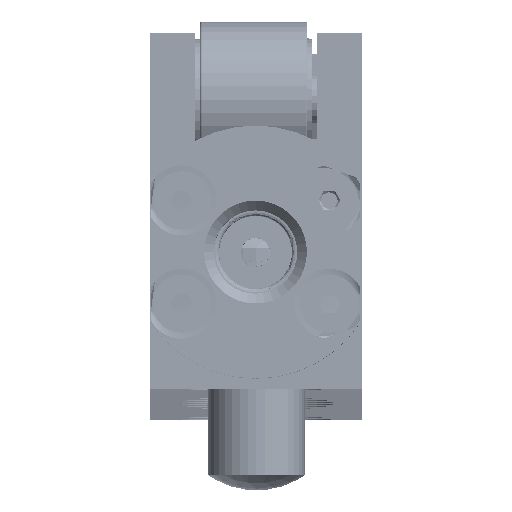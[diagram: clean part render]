
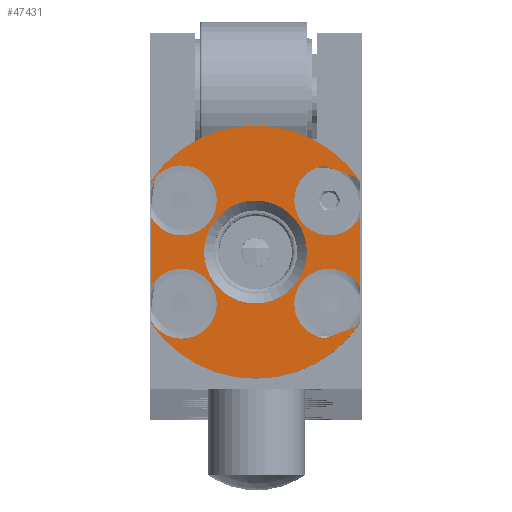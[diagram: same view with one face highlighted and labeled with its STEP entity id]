
A CAD part, top view. The second image highlights one B-rep face of the part: STEP entity #47431.
In plain terms, the highlighted planar face has unit normal (0, 0, 1).
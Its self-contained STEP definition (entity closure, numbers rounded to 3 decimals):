
#1722=FACE_BOUND('',#7368,.T.);
#2129=PLANE('',#51878);
#4486=FACE_OUTER_BOUND('',#7367,.T.);
#7367=EDGE_LOOP('',(#35789,#35790,#35791,#35792,#35793,#35794,#35795,#35796,
#35797,#35798,#35799,#35800,#35801,#35802,#35803,#35804));
#7368=EDGE_LOOP('',(#35805));
#9896=LINE('',#85381,#11630);
#9897=LINE('',#85384,#11631);
#9898=LINE('',#85388,#11632);
#9899=LINE('',#85392,#11633);
#9900=LINE('',#85396,#11634);
#9901=LINE('',#85400,#11635);
#9902=LINE('',#85404,#11636);
#9903=LINE('',#85407,#11637);
#11630=VECTOR('',#62949,10.);
#11631=VECTOR('',#62952,10.);
#11632=VECTOR('',#62955,10.);
#11633=VECTOR('',#62958,10.);
#11634=VECTOR('',#62961,10.);
#11635=VECTOR('',#62964,10.);
#11636=VECTOR('',#62967,10.);
#11637=VECTOR('',#62970,10.);
#14013=CIRCLE('',#51871,3.6);
#14016=CIRCLE('',#51874,3.6);
#14018=CIRCLE('',#51879,3.6);
#14019=CIRCLE('',#51880,3.6);
#14020=CIRCLE('',#51881,13.);
#14021=CIRCLE('',#51882,3.6);
#14022=CIRCLE('',#51883,3.6);
#14023=CIRCLE('',#51884,13.);
#14024=CIRCLE('',#51885,5.283);
#19278=VERTEX_POINT('',#85355);
#19279=VERTEX_POINT('',#85356);
#19280=VERTEX_POINT('',#85360);
#19284=VERTEX_POINT('',#85371);
#19286=VERTEX_POINT('',#85383);
#19287=VERTEX_POINT('',#85385);
#19288=VERTEX_POINT('',#85387);
#19289=VERTEX_POINT('',#85389);
#19290=VERTEX_POINT('',#85391);
#19291=VERTEX_POINT('',#85393);
#19292=VERTEX_POINT('',#85395);
#19293=VERTEX_POINT('',#85397);
#19294=VERTEX_POINT('',#85399);
#19295=VERTEX_POINT('',#85401);
#19296=VERTEX_POINT('',#85403);
#19297=VERTEX_POINT('',#85405);
#19298=VERTEX_POINT('',#85408);
#25349=EDGE_CURVE('',#19280,#19278,#14013,.T.);
#25355=EDGE_CURVE('',#19279,#19284,#14016,.T.);
#25358=EDGE_CURVE('',#19284,#19280,#9896,.T.);
#25359=EDGE_CURVE('',#19278,#19286,#9897,.T.);
#25360=EDGE_CURVE('',#19286,#19287,#14018,.T.);
#25361=EDGE_CURVE('',#19287,#19288,#9898,.T.);
#25362=EDGE_CURVE('',#19288,#19289,#14019,.T.);
#25363=EDGE_CURVE('',#19289,#19290,#9899,.T.);
#25364=EDGE_CURVE('',#19291,#19290,#14020,.T.);
#25365=EDGE_CURVE('',#19291,#19292,#9900,.T.);
#25366=EDGE_CURVE('',#19292,#19293,#14021,.T.);
#25367=EDGE_CURVE('',#19293,#19294,#9901,.T.);
#25368=EDGE_CURVE('',#19294,#19295,#14022,.T.);
#25369=EDGE_CURVE('',#19295,#19296,#9902,.T.);
#25370=EDGE_CURVE('',#19297,#19296,#14023,.T.);
#25371=EDGE_CURVE('',#19297,#19279,#9903,.T.);
#25372=EDGE_CURVE('',#19298,#19298,#14024,.T.);
#35789=ORIENTED_EDGE('',*,*,#25355,.T.);
#35790=ORIENTED_EDGE('',*,*,#25358,.T.);
#35791=ORIENTED_EDGE('',*,*,#25349,.T.);
#35792=ORIENTED_EDGE('',*,*,#25359,.T.);
#35793=ORIENTED_EDGE('',*,*,#25360,.T.);
#35794=ORIENTED_EDGE('',*,*,#25361,.T.);
#35795=ORIENTED_EDGE('',*,*,#25362,.T.);
#35796=ORIENTED_EDGE('',*,*,#25363,.T.);
#35797=ORIENTED_EDGE('',*,*,#25364,.F.);
#35798=ORIENTED_EDGE('',*,*,#25365,.T.);
#35799=ORIENTED_EDGE('',*,*,#25366,.T.);
#35800=ORIENTED_EDGE('',*,*,#25367,.T.);
#35801=ORIENTED_EDGE('',*,*,#25368,.T.);
#35802=ORIENTED_EDGE('',*,*,#25369,.T.);
#35803=ORIENTED_EDGE('',*,*,#25370,.F.);
#35804=ORIENTED_EDGE('',*,*,#25371,.T.);
#35805=ORIENTED_EDGE('',*,*,#25372,.F.);
#47431=ADVANCED_FACE('',(#4486,#1722),#2129,.T.);
#51871=AXIS2_PLACEMENT_3D('',#85361,#62933,#62934);
#51874=AXIS2_PLACEMENT_3D('',#85375,#62940,#62941);
#51878=AXIS2_PLACEMENT_3D('',#85382,#62950,#62951);
#51879=AXIS2_PLACEMENT_3D('',#85386,#62953,#62954);
#51880=AXIS2_PLACEMENT_3D('',#85390,#62956,#62957);
#51881=AXIS2_PLACEMENT_3D('',#85394,#62959,#62960);
#51882=AXIS2_PLACEMENT_3D('',#85398,#62962,#62963);
#51883=AXIS2_PLACEMENT_3D('',#85402,#62965,#62966);
#51884=AXIS2_PLACEMENT_3D('',#85406,#62968,#62969);
#51885=AXIS2_PLACEMENT_3D('',#85409,#62971,#62972);
#62933=DIRECTION('center_axis',(0.,0.,-1.));
#62934=DIRECTION('ref_axis',(-0.342,0.94,0.));
#62940=DIRECTION('center_axis',(0.,0.,-1.));
#62941=DIRECTION('ref_axis',(-0.342,0.94,0.));
#62949=DIRECTION('',(-0.94,-0.342,0.));
#62950=DIRECTION('center_axis',(0.,0.,1.));
#62951=DIRECTION('ref_axis',(1.,0.,0.));
#62952=DIRECTION('',(0.,1.,0.));
#62953=DIRECTION('center_axis',(0.,0.,-1.));
#62954=DIRECTION('ref_axis',(-0.342,-0.94,0.));
#62955=DIRECTION('',(0.94,-0.342,0.));
#62956=DIRECTION('center_axis',(0.,0.,-1.));
#62957=DIRECTION('ref_axis',(-0.342,-0.94,0.));
#62958=DIRECTION('',(0.,1.,0.));
#62959=DIRECTION('center_axis',(0.,0.,-1.));
#62960=DIRECTION('ref_axis',(0.,1.,0.));
#62961=DIRECTION('',(0.,-1.,0.));
#62962=DIRECTION('center_axis',(0.,0.,-1.));
#62963=DIRECTION('ref_axis',(1.,0.,0.));
#62964=DIRECTION('',(0.,-1.,0.));
#62965=DIRECTION('center_axis',(0.,0.,-1.));
#62966=DIRECTION('ref_axis',(1.,0.,0.));
#62967=DIRECTION('',(0.,-1.,0.));
#62968=DIRECTION('center_axis',(0.,0.,-1.));
#62969=DIRECTION('ref_axis',(0.,1.,0.));
#62970=DIRECTION('',(0.,1.,0.));
#62971=DIRECTION('center_axis',(0.,0.,1.));
#62972=DIRECTION('ref_axis',(-1.,0.,0.));
#85355=CARTESIAN_POINT('',(10.7,-7.855,1416.));
#85356=CARTESIAN_POINT('',(10.7,-11.256,1416.));
#85360=CARTESIAN_POINT('',(7.014,-13.119,1416.));
#85361=CARTESIAN_POINT('Origin',(7.527,-9.556,1416.));
#85371=CARTESIAN_POINT('',(10.211,-11.955,1416.));
#85375=CARTESIAN_POINT('Origin',(7.527,-9.556,1416.));
#85381=CARTESIAN_POINT('',(8.106,-12.721,1416.));
#85382=CARTESIAN_POINT('Origin',(-0.05,2.25,1416.));
#85383=CARTESIAN_POINT('',(10.7,-0.645,1416.));
#85384=CARTESIAN_POINT('',(10.7,-4.655,1416.));
#85385=CARTESIAN_POINT('',(7.014,4.619,1416.));
#85386=CARTESIAN_POINT('Origin',(7.527,1.056,1416.));
#85387=CARTESIAN_POINT('',(10.211,3.455,1416.));
#85388=CARTESIAN_POINT('',(6.017,4.982,1416.));
#85389=CARTESIAN_POINT('',(10.7,2.756,1416.));
#85390=CARTESIAN_POINT('Origin',(7.527,1.056,1416.));
#85391=CARTESIAN_POINT('',(10.7,3.06,1416.));
#85392=CARTESIAN_POINT('',(10.7,-4.655,1416.));
#85393=CARTESIAN_POINT('',(-10.8,3.06,1416.));
#85394=CARTESIAN_POINT('Origin',(-0.05,-4.25,1416.));
#85395=CARTESIAN_POINT('',(-10.8,2.756,1416.));
#85396=CARTESIAN_POINT('',(-10.8,2.655,1416.));
#85397=CARTESIAN_POINT('',(-10.8,-0.645,1416.));
#85398=CARTESIAN_POINT('Origin',(-7.627,1.056,1416.));
#85399=CARTESIAN_POINT('',(-10.8,-7.855,1416.));
#85400=CARTESIAN_POINT('',(-10.8,2.655,1416.));
#85401=CARTESIAN_POINT('',(-10.8,-11.256,1416.));
#85402=CARTESIAN_POINT('Origin',(-7.627,-9.556,1416.));
#85403=CARTESIAN_POINT('',(-10.8,-11.56,1416.));
#85404=CARTESIAN_POINT('',(-10.8,2.655,1416.));
#85405=CARTESIAN_POINT('',(10.7,-11.56,1416.));
#85406=CARTESIAN_POINT('Origin',(-0.05,-4.25,1416.));
#85407=CARTESIAN_POINT('',(10.7,-4.655,1416.));
#85408=CARTESIAN_POINT('',(5.233,-4.25,1416.));
#85409=CARTESIAN_POINT('Origin',(-0.05,-4.25,1416.));
